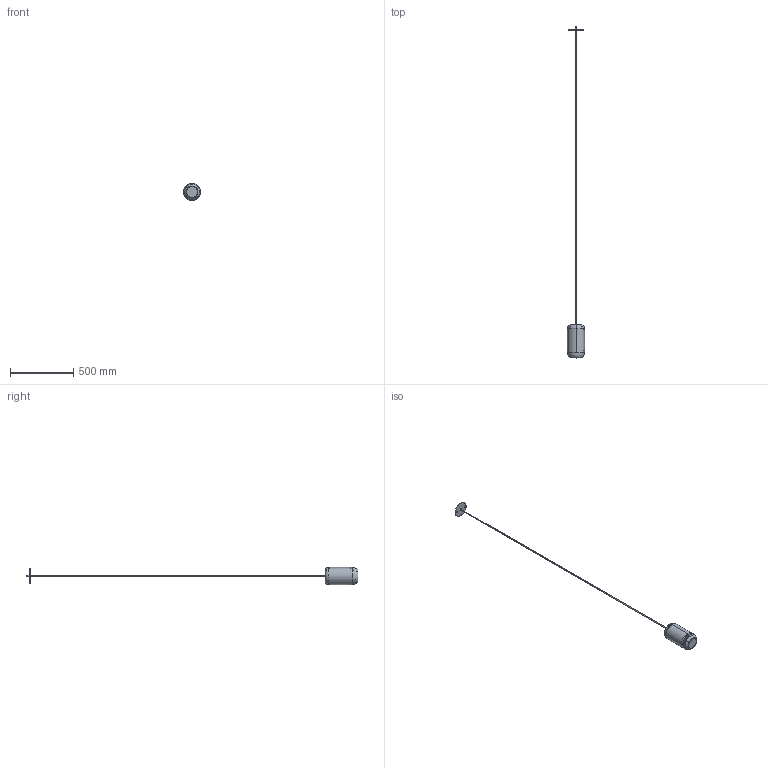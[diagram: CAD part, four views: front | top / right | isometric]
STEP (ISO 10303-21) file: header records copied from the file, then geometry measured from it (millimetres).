
FILE_DESCRIPTION (( 'STEP AP203' ), '1' );
FILE_NAME ('USURBANMXXXXLCC-PER 3D.STEP', '2026-07-07T16:33:27', ( '' ), ( '' ), 'SwSTEP 2.0', 'SolidWorks 2026', '' );
FILE_SCHEMA (( 'CONFIG_CONTROL_DESIGN' ));
Length unit declared in the file: millimetre
Products named in the file (13): CAVO ELETTRICO+RIV TESSUTO; ASSIEME CUPOLA PER PL-SP URBAN; WSCM2A0032-0700-00; USURBANMXXXXLCC-PER 3D; URBAN-PL1-02-V1; URBAN-PL1-04-V2; PL WRAP-2; TAPPO COPRIVITE ADESIVO BIANCO RAL 9016 RAGGRIZZATO OPACO; WSCM2C0051-0100-01; WSASS-000000038-00; URBAN-PL1-06-V2; URBAN-SP1-01-V2; USURBANMXXXXLCC-PENDENTE USA
Assembly tree (13 placements, depth 4):
  USURBANMXXXXLCC-PER 3D
    USURBANMXXXXLCC-PENDENTE USA
      URBAN-SP1-01-V2
      URBAN-PL1-06-V2
      URBAN-PL1-04-V2
      ASSIEME CUPOLA PER PL-SP URBAN
        URBAN-PL1-02-V1
        PL WRAP-2
      CAVO ELETTRICO+RIV TESSUTO
    WSASS-000000038-00
      WSCM2C0051-0100-01
      WSCM2A0032-0700-00
      TAPPO COPRIVITE ADESIVO BIANCO RAL 9016 RAGGRIZZATO OPACO  x2
Bounding box: 135 x 2616.22 x 135 mm (x, y, z)
Volume: 677199.5 mm3; surface area: 381461.4 mm2
Topology: 10 solids, 10 shells, 203 faces, 418 edges, 248 vertices
Faces by surface type: cylinder 72, cone 62, torus 36, plane 33
Entity records: 6813 total; most frequent: DIRECTION 1128, CARTESIAN_POINT 874, ORIENTED_EDGE 824, AXIS2_PLACEMENT_3D 498, EDGE_CURVE 412, CIRCLE 280, EDGE_LOOP 244, VERTEX_POINT 244
